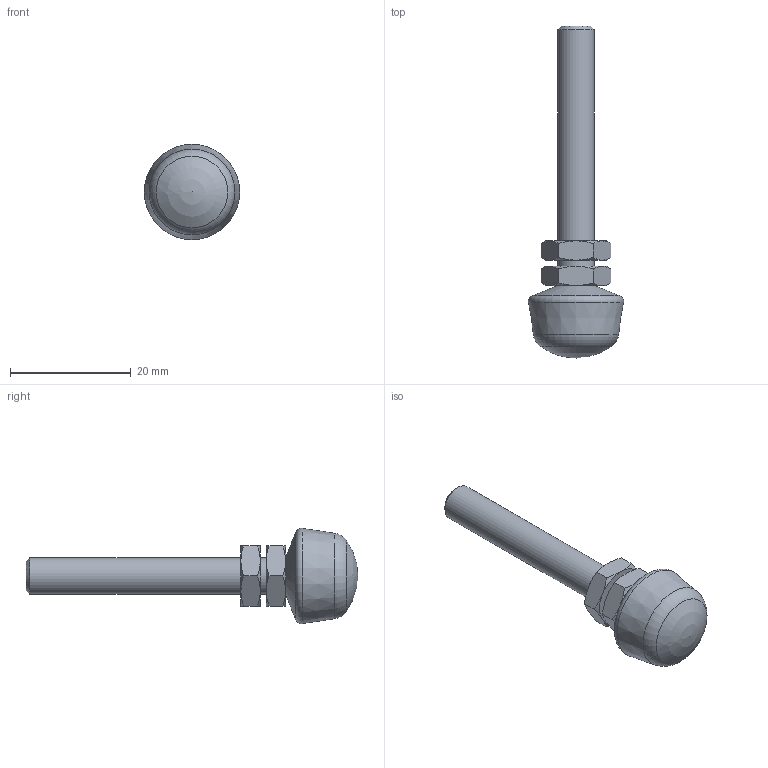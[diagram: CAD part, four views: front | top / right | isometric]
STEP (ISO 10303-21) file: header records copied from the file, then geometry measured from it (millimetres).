
FILE_DESCRIPTION( ( 'STEP AP203' ), '1' );
FILE_NAME( 'C:/Temp/Ganter_Step_05_03_2020/data/2_4/gn_708_1/gn_708_1_ni/Stainless Steel-Clamping bolt GN 708.1-M6-55-B-NI (0).stp', '2020-03-13T05:51:24', ( 'License CC BY-ND 4.0' ), ( 'CADENAS' ), ' ', 'PARTsolutions', ' ' );
FILE_SCHEMA( ( 'CONFIG_CONTROL_DESIGN' ) );
Length unit declared in the file: millimetre
Products named in the file (3): Stainless Steel-Clamping bolt GN 708.1-M6-55-B-NI (0); _Edelstahl-Andrueckschraube GN 708.1-M6-55-B-NI (0)-1; _Edelstahl-Andrueckschraube GN 708.1-M6-55-B-NI-2
Assembly tree (3 placements, depth 2):
  Stainless Steel-Clamping bolt GN 708.1-M6-55-B-NI (0)
    _Edelstahl-Andrueckschraube GN 708.1-M6-55-B-NI (0)-1
    _Edelstahl-Andrueckschraube GN 708.1-M6-55-B-NI-2  x2
Bounding box: 15.78 x 55 x 15.78 mm (x, y, z)
Volume: 3305.9 mm3; surface area: 2073.4 mm2
Topology: 3 solids, 3 shells, 54 faces, 114 edges, 65 vertices
Faces by surface type: cone 31, plane 17, cylinder 3, torus 2, sphere 1
Full cylindrical faces by diameter (mm): 4.917 x2, 6 x1
Entity records: 942 total; most frequent: CARTESIAN_POINT 245, DIRECTION 122, ORIENTED_EDGE 106, AXIS2_PLACEMENT_3D 58, EDGE_CURVE 53, EDGE_LOOP 42, VERTEX_POINT 37, FACE_OUTER_BOUND 35
